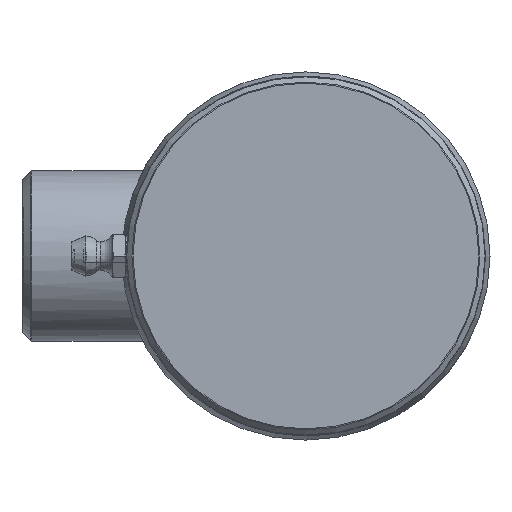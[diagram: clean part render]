
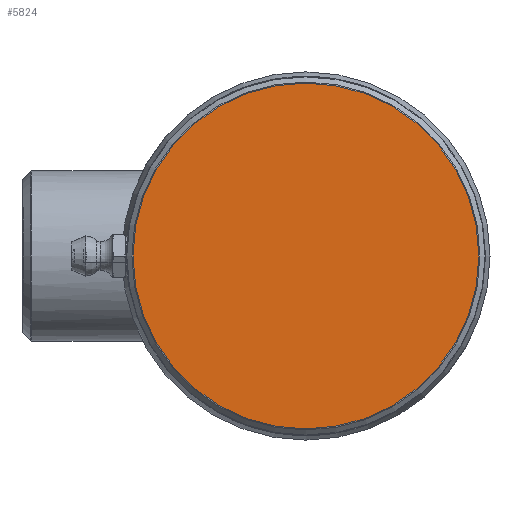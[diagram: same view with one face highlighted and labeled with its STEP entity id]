
A CAD part, left-side view. The second image highlights one B-rep face of the part: STEP entity #5824.
In plain terms, the highlighted planar face has unit normal (-1, 0, 0).
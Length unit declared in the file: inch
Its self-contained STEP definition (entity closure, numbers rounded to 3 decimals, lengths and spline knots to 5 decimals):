
#784=PLANE('',#6454);
#1429=FACE_OUTER_BOUND('',#1795,.T.);
#1795=EDGE_LOOP('',(#4147));
#2233=CIRCLE('',#6449,1.14336);
#2664=VERTEX_POINT('',#9171);
#3236=EDGE_CURVE('',#2664,#2664,#2233,.T.);
#4147=ORIENTED_EDGE('',*,*,#3236,.F.);
#5824=ADVANCED_FACE('',(#1429),#784,.F.);
#6449=AXIS2_PLACEMENT_3D('',#9173,#7297,#7298);
#6454=AXIS2_PLACEMENT_3D('',#9181,#7308,#7309);
#7297=DIRECTION('center_axis',(1.,0.,0.));
#7298=DIRECTION('ref_axis',(0.,-1.,0.));
#7308=DIRECTION('center_axis',(1.,0.,0.));
#7309=DIRECTION('ref_axis',(0.,0.,-1.));
#9171=CARTESIAN_POINT('',(-1.,0.,1.14336));
#9173=CARTESIAN_POINT('Origin',(-1.,0.,0.));
#9181=CARTESIAN_POINT('Origin',(-1.,0.,0.));
